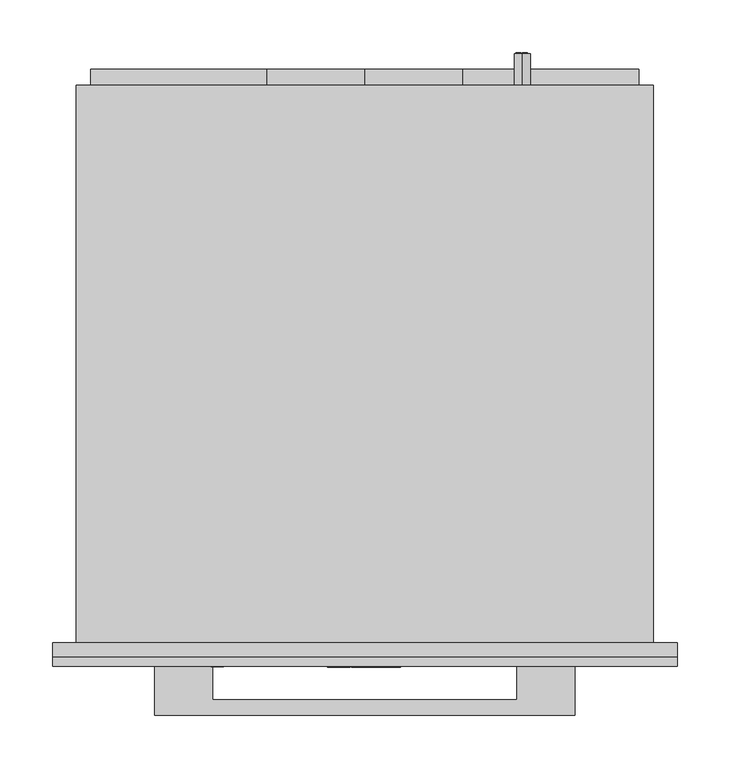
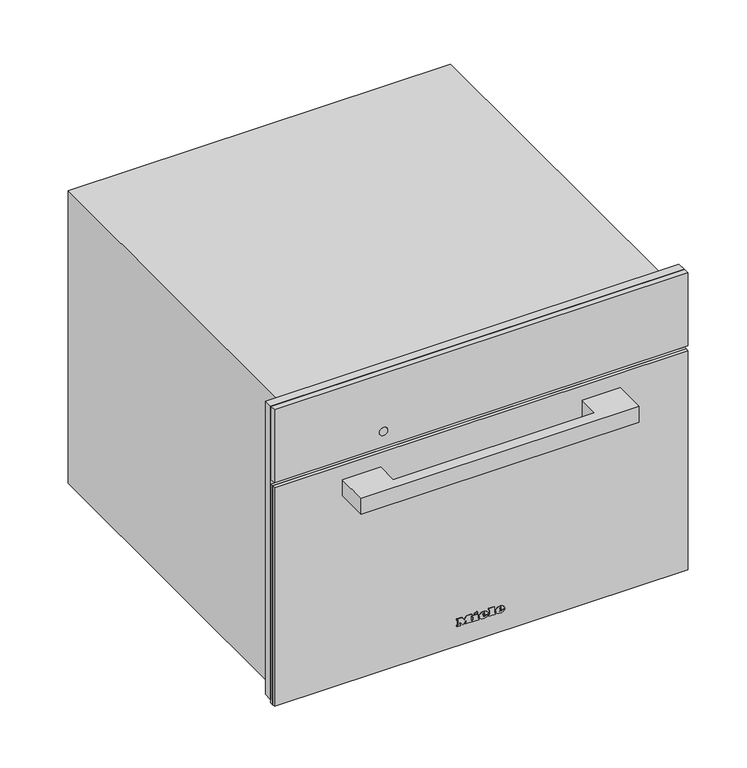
"""IFC4 building model written with IfcOpenShell, lengths in millimetres: proxy geometry, 11146180_IB_DG2840_OBSW : 23284020_IB_11146180_DG2840_OBSW."""

from ifc_helpers import new_model, si_unit, point, frame, frame_2d, origin, place, context, project, spatial, polyline, circle_curve, ellipse_curve, trimmed, segment, composite_curve, outline, extrude, faceted_brep, source, transform, mapped, element, save
from ifc_brep_helpers import plane_surface, cylinder_surface, revolved_surface, extruded_surface, advanced_brep


def specialty_equipment_9c9476c8(model_context):
    return source(origin(), model_context, "Body", "SolidModel", [
        extrude(outline(polyline([(455.0, 297.5), (455.0, -297.5), (9.0, -297.5), (9.0, -272.5), (344.0, -272.5), (344.0, 272.5), (9.0, 272.5), (9.0, 297.5), (455.0, 297.5)])), frame((0.0, -13.0, 0.0), z_axis=(0.0, 1.0, 0.0), x_axis=(0.0, 0.0, 1.0)), (0.0, 0.0, 1.0), 13.0),
        advanced_brep(
        [(150.0, 561.0, 410.5), (150.0, 561.0, 395.5), (144.4098301, 561.0, 398.0), (148.5, 561.0, 398.0), (148.5, 561.0, 408.0), (147.4955303, 561.0, 408.0), (147.4955303, 561.0, 399.0), (144.0315043, 561.0, 399.0), (144.0315043, 561.0, 398.4582978), (155.0, 561.0, 398.0), (155.0, 561.0, 408.0), (150.0, 561.0, 408.0), (150.0, 561.0, 407.0), (154.0, 561.0, 407.0), (154.0, 561.0, 403.5), (151.0, 561.0, 403.5), (151.0, 561.0, 402.5), (154.0, 561.0, 402.5), (154.0, 561.0, 399.0), (150.0, 561.0, 399.0), (150.0, 561.0, 398.0), (150.0, 531.0, 395.5), (150.0, 531.0, 410.5), (155.0, 562.0, 408.0), (155.0, 562.0, 398.0), (150.0, 562.0, 398.0), (150.0, 562.0, 399.0), (154.0, 562.0, 399.0), (154.0, 562.0, 402.5), (151.0, 562.0, 402.5), (151.0, 562.0, 403.5), (154.0, 562.0, 403.5), (154.0, 562.0, 407.0), (150.0, 562.0, 407.0), (150.0, 562.0, 408.0), (148.5, 562.0, 398.0), (144.0315043, 562.0, 398.0), (144.0315043, 562.0, 399.0), (147.4955303, 562.0, 399.0), (147.4955303, 562.0, 408.0), (148.5, 562.0, 408.0), (144.0315043, 561.0, 398.0)],
        [
            (0, 1, circle_curve(frame((150.0, 561.0, 403.0), z_axis=(0.0, 1.0, 0.0), x_axis=(0.0, 0.0, 1.0)), 7.5)),
            (1, 2, circle_curve(frame((150.0, 561.0, 403.0), z_axis=(0.0, 1.0, 0.0), x_axis=(0.0, 0.0, 1.0)), 7.5)),
            (2, 3),
            (3, 4),
            (4, 5),
            (5, 6),
            (6, 7),
            (7, 8),
            (8, 0, circle_curve(frame((150.0, 561.0, 403.0), z_axis=(0.0, 1.0, 0.0), x_axis=(0.0, 0.0, 1.0)), 7.5)),
            (9, 10),
            (10, 11),
            (11, 12),
            (12, 13),
            (13, 14),
            (14, 15),
            (15, 16),
            (16, 17),
            (17, 18),
            (18, 19),
            (19, 20),
            (20, 9),
            (21, 22, circle_curve(frame((150.0, 531.0, 403.0), z_axis=(0.0, -1.0, 0.0), x_axis=(0.0, 0.0, 1.0)), 7.5)),
            (22, 21, circle_curve(frame((150.0, 531.0, 403.0), z_axis=(0.0, -1.0, 0.0), x_axis=(0.0, 0.0, 1.0)), 7.5)),
            (0, 22),
            (21, 1),
            (8, 2, circle_curve(frame((150.0, 561.0, 403.0), z_axis=(0.0, -1.0, 0.0), x_axis=(0.0, 0.0, 1.0)), 7.5)),
            (23, 24),
            (24, 25),
            (25, 26),
            (26, 27),
            (27, 28),
            (28, 29),
            (29, 30),
            (30, 31),
            (31, 32),
            (32, 33),
            (33, 34),
            (34, 23),
            (35, 36),
            (36, 37),
            (37, 38),
            (38, 39),
            (39, 40),
            (40, 35),
            (8, 41),
            (41, 2),
            (23, 10),
            (9, 24),
            (20, 25),
            (19, 26),
            (18, 27),
            (17, 28),
            (16, 29),
            (15, 30),
            (14, 31),
            (13, 32),
            (12, 33),
            (11, 34),
            (35, 3),
            (41, 36),
            (7, 37),
            (6, 38),
            (5, 39),
            (4, 40),
        ],
        [
            plane_surface(frame((150.0, 561.0, 410.5), z_axis=(0.0, 1.0, 0.0), x_axis=(1.0, 0.0, 0.0))),
            plane_surface(frame((150.0, 531.0, 410.5), z_axis=(0.0, -1.0, 0.0), x_axis=(-1.0, 0.0, 0.0))),
            cylinder_surface(frame((150.0, 561.0, 403.0), z_axis=(0.0, -1.0, 0.0), x_axis=(0.0, 0.0, 1.0)), 7.5),
            plane_surface(frame((155.0, 562.0, 408.0), z_axis=(0.0, 1.0, 0.0), x_axis=(0.0, 0.0, -1.0))),
            plane_surface(frame((155.0, 561.0, 408.0), z_axis=(0.0, -1.0, 0.0), x_axis=(0.0, 0.0, 1.0))),
            plane_surface(frame((155.0, 562.0, 408.0), z_axis=(1.0, 0.0, 0.0), x_axis=(0.0, -1.0, 0.0))),
            plane_surface(frame((155.0, 562.0, 398.0), z_axis=(0.0, 0.0, -1.0), x_axis=(0.0, -1.0, 0.0))),
            plane_surface(frame((150.0, 562.0, 398.0), z_axis=(-1.0, 0.0, 0.0), x_axis=(0.0, -1.0, 0.0))),
            plane_surface(frame((150.0, 562.0, 399.0), z_axis=(0.0, 0.0, 1.0), x_axis=(0.0, -1.0, 0.0))),
            plane_surface(frame((154.0, 562.0, 399.0), z_axis=(-1.0, 0.0, 0.0), x_axis=(0.0, -1.0, 0.0))),
            plane_surface(frame((154.0, 562.0, 402.5), z_axis=(0.0, 0.0, -1.0), x_axis=(0.0, -1.0, 0.0))),
            plane_surface(frame((151.0, 562.0, 402.5), z_axis=(-1.0, 0.0, 0.0), x_axis=(0.0, -1.0, 0.0))),
            plane_surface(frame((151.0, 562.0, 403.5), z_axis=(0.0, 0.0, 1.0), x_axis=(0.0, -1.0, 0.0))),
            plane_surface(frame((154.0, 562.0, 403.5), z_axis=(-1.0, 0.0, 0.0), x_axis=(0.0, -1.0, 0.0))),
            plane_surface(frame((154.0, 562.0, 407.0), z_axis=(0.0, 0.0, -1.0), x_axis=(0.0, -1.0, 0.0))),
            plane_surface(frame((150.0, 562.0, 407.0), z_axis=(-1.0, 0.0, 0.0), x_axis=(0.0, -1.0, 0.0))),
            plane_surface(frame((150.0, 562.0, 408.0), z_axis=(0.0, 0.0, 1.0), x_axis=(0.0, -1.0, 0.0))),
            plane_surface(frame((148.5, 562.0, 398.0), z_axis=(0.0, 0.0, -1.0), x_axis=(0.0, -1.0, 0.0))),
            plane_surface(frame((144.0315043, 562.0, 398.0), z_axis=(-1.0, 0.0, 0.0), x_axis=(0.0, -1.0, 0.0))),
            plane_surface(frame((144.0315043, 562.0, 399.0), z_axis=(0.0, 0.0, 1.0), x_axis=(0.0, -1.0, 0.0))),
            plane_surface(frame((147.4955303, 562.0, 399.0), z_axis=(-1.0, 0.0, 0.0), x_axis=(0.0, -1.0, 0.0))),
            plane_surface(frame((147.4955303, 562.0, 408.0), z_axis=(0.0, 0.0, 1.0), x_axis=(0.0, -1.0, 0.0))),
            plane_surface(frame((148.5, 562.0, 408.0), z_axis=(1.0, 0.0, 0.0), x_axis=(0.0, -1.0, 0.0))),
        ],
        [
            (0, [[1, 2, 3, 4, 5, 6, 7, 8, 9], [10, 11, 12, 13, 14, 15, 16, 17, 18, 19, 20, 21]]),
            (1, [[22, 23]]),
            (2, [[-1, 24, -22, 25]]),
            (2, [[-23, -24, -9, 26, -2, -25]]),
            (3, [[27, 28, 29, 30, 31, 32, 33, 34, 35, 36, 37, 38]]),
            (3, [[39, 40, 41, 42, 43, 44]]),
            (4, [[45, 46, -26]]),
            (5, [[-27, 47, -10, 48]]),
            (6, [[-28, -48, -21, 49]]),
            (7, [[-29, -49, -20, 50]]),
            (8, [[-30, -50, -19, 51]]),
            (9, [[-31, -51, -18, 52]]),
            (10, [[-32, -52, -17, 53]]),
            (11, [[-33, -53, -16, 54]]),
            (12, [[-34, -54, -15, 55]]),
            (13, [[-35, -55, -14, 56]]),
            (14, [[-36, -56, -13, 57]]),
            (15, [[-37, -57, -12, 58]]),
            (16, [[-38, -58, -11, -47]]),
            (17, [[-39, 59, -3, -46, 60]]),
            (18, [[-40, -60, -45, -8, 61]]),
            (19, [[-41, -61, -7, 62]]),
            (20, [[-42, -62, -6, 63]]),
            (21, [[-43, -63, -5, 64]]),
            (22, [[-44, -64, -4, -59]]),
        ],
    ),
        extrude(outline(polyline([(299.0, -93.0), (258.0, -93.0), (258.0, -261.0), (111.0, -261.0), (111.0, -93.0), (70.0, -93.0), (70.0, 0.0), (70.0, 93.0), (111.0, 93.0), (111.0, 261.0), (258.0, 261.0), (258.0, 93.0), (299.0, 93.0), (299.0, 0.0), (299.0, -93.0)])), frame((0.0, 531.0, 0.0), z_axis=(0.0, 1.0, 0.0), x_axis=(0.0, 0.0, 1.0)), (0.0, 0.0, 1.0), 15.0),
        faceted_brep([(275.0, 531.0, 445.0), (275.0, 531.0, 0.0), (-275.0, 531.0, 0.0), (-275.0, 531.0, 445.0), (275.0, 0.0, 445.0), (-275.0, 0.0, 445.0), (-275.0, 0.0, 0.0), (275.0, 0.0, 0.0), (-272.5, 0.0, 344.0), (272.5, 0.0, 344.0), (272.5, 0.0, 8.0), (-272.5, 0.0, 8.0), (272.5, 34.0, 344.0), (-272.5, 34.0, 344.0), (-272.5, 34.0, 8.0), (272.5, 34.0, 8.0), (161.0, 34.0, 286.0), (161.0, 34.0, 58.0), (-220.0, 34.0, 58.0), (-220.0, 34.0, 286.0), (161.0, 444.0, 286.0), (-220.0, 444.0, 286.0), (-220.0, 444.0, 58.0), (161.0, 444.0, 58.0)], [[[0, 1, 2, 3]], [[4, 5, 6, 7], [8, 9, 10, 11]], [[0, 3, 5, 4]], [[3, 2, 6, 5]], [[2, 1, 7, 6]], [[1, 0, 4, 7]], [[12, 13, 14, 15], [16, 17, 18, 19]], [[13, 12, 9, 8]], [[14, 13, 8, 11]], [[15, 14, 11, 10]], [[12, 15, 10, 9]], [[20, 21, 22, 23]], [[20, 23, 17, 16]], [[23, 22, 18, 17]], [[22, 21, 19, 18]], [[21, 20, 16, 19]]]),
        advanced_brep(
        [(26.2998, -23.0, 36.7018), (26.2998, -23.0, 37.8532), (33.9264, -23.0, 37.8532), (20.6568, -23.0, 37.8532), (23.7918, -23.0, 34.0), (33.7326, -23.0, 36.7018), (30.2898, -23.0, 36.7018), (27.5766, -23.0, 35.425), (26.2998, -23.0, 39.3124), (26.2998, -23.0, 40.555), (28.2492, -23.0, 40.555), (28.2492, -23.0, 39.3124), (26.2998, -22.0, 36.7018), (27.5766, -22.0, 35.425), (30.2898, -22.0, 36.7018), (33.7326, -22.0, 36.7018), (23.7918, -22.0, 34.0), (20.6568, -22.0, 37.8532), (33.9264, -22.0, 37.8532), (26.2998, -22.0, 37.8532), (26.2998, -22.0, 39.3124), (28.2492, -22.0, 39.3124), (28.2492, -22.0, 40.555), (26.2998, -22.0, 40.555)],
        [
            (0, 1),
            (1, 2),
            (2, 3, ellipse_curve(frame((27.2916, -23.0, 37.8532), z_axis=(0.0, -1.0, 0.0), x_axis=(-1.0, 0.0, 0.0)), 6.6348, 5.4834)),
            (3, 4, circle_curve(frame((25.0686622, -23.0, 38.2408), z_axis=(0.0, -1.0, 0.0), x_axis=(0.0, 0.0, -1.0)), 4.4288556)),
            (4, 5, circle_curve(frame((27.1587808, -23.0, 41.2504), z_axis=(0.0, -1.0, 0.0), x_axis=(0.0, 0.0, -1.0)), 7.9940516)),
            (5, 6),
            (6, 7, circle_curve(frame((28.1338588, -23.0, 37.762), z_axis=(0.0, 1.0, 0.0), x_axis=(0.0, 0.0, -1.0)), 2.4025208)),
            (7, 0, circle_curve(frame((27.5766, -23.0, 36.7018), z_axis=(0.0, 1.0, 0.0), x_axis=(0.0, 0.0, -1.0)), 1.2768)),
            (8, 9),
            (9, 10, circle_curve(frame((27.2745, -23.0, 40.555), z_axis=(0.0, 1.0, 0.0), x_axis=(0.0, 0.0, -1.0)), 0.9747)),
            (10, 11),
            (11, 8),
            (12, 13, circle_curve(frame((27.5766, -22.0, 36.7018), z_axis=(0.0, -1.0, 0.0), x_axis=(0.0, 0.0, -1.0)), 1.2768)),
            (13, 14, circle_curve(frame((28.1338588, -22.0, 37.762), z_axis=(0.0, -1.0, 0.0), x_axis=(0.0, 0.0, -1.0)), 2.4025208)),
            (14, 15),
            (15, 16, circle_curve(frame((27.1587808, -22.0, 41.2504), z_axis=(0.0, 1.0, 0.0), x_axis=(0.0, 0.0, -1.0)), 7.9940516)),
            (16, 17, circle_curve(frame((25.0686622, -22.0, 38.2408), z_axis=(0.0, 1.0, 0.0), x_axis=(0.0, 0.0, -1.0)), 4.4288556)),
            (17, 18, ellipse_curve(frame((27.2916, -22.0, 37.8532), z_axis=(0.0, 1.0, 0.0), x_axis=(-1.0, 0.0, 0.0)), 6.6348, 5.4834)),
            (18, 19),
            (19, 12),
            (20, 21),
            (21, 22),
            (22, 23, circle_curve(frame((27.2745, -22.0, 40.555), z_axis=(0.0, -1.0, 0.0), x_axis=(0.0, 0.0, -1.0)), 0.9747)),
            (23, 20),
            (0, 12),
            (19, 1),
            (18, 2),
            (5, 15),
            (14, 6),
            (17, 3),
            (13, 7),
            (16, 4),
            (8, 20),
            (23, 9),
            (22, 10),
            (21, 11),
        ],
        [
            plane_surface(frame((26.2998, -23.0, 37.8532), z_axis=(0.0, -1.0, 0.0), x_axis=(0.0, 0.0, 1.0))),
            plane_surface(frame((26.2998, -22.0, 37.8532), z_axis=(0.0, 1.0, 0.0), x_axis=(0.0, 0.0, -1.0))),
            plane_surface(frame((26.2998, -23.0, 36.7018), z_axis=(1.0, 0.0, 0.0), x_axis=(0.0, 1.0, 0.0))),
            plane_surface(frame((26.2998, -23.0, 37.8532), z_axis=(0.0, 0.0, -1.0), x_axis=(0.0, 1.0, 0.0))),
            plane_surface(frame((33.7326, -23.0, 36.7018), z_axis=(0.0, 0.0, 1.0), x_axis=(0.0, 1.0, 0.0))),
            extruded_surface(trimmed(ellipse_curve(frame((27.2916, -21.0, 37.8532), z_axis=(0.0, -1.0, 0.0), x_axis=(-1.0, 0.0, 0.0)), 6.6348, 5.4834), [point((33.9264, -21.0, 37.8532))], [point((20.6568, -21.0, 37.8532))], True, "CARTESIAN"), (0.0, -1.0, 0.0), 1.0),
            revolved_surface(polyline([(28.1338588, -22.0, 35.3594792), (28.1338588, -23.0, 35.3594792)]), (28.1338588, -22.0, 37.762), (0.0, 1.0, 0.0)),
            revolved_surface(polyline([(27.5766, -22.0, 35.425), (27.5766, -23.0, 35.425)]), (27.5766, -22.0, 36.7018), (0.0, 1.0, 0.0)),
            cylinder_surface(frame((25.0686622, -22.0, 38.2408), z_axis=(0.0, -1.0, 0.0), x_axis=(0.0, 0.0, -1.0)), 4.4288556),
            cylinder_surface(frame((27.1587808, -22.0, 41.2504), z_axis=(0.0, -1.0, 0.0), x_axis=(0.0, 0.0, -1.0)), 7.9940516),
            plane_surface(frame((26.2998, -23.0, 39.3124), z_axis=(1.0, 0.0, 0.0), x_axis=(0.0, 1.0, 0.0))),
            revolved_surface(polyline([(27.2745, -22.0, 39.5803), (27.2745, -23.0, 39.5803)]), (27.2745, -22.0, 40.555), (0.0, 1.0, 0.0)),
            plane_surface(frame((28.2492, -23.0, 40.555), z_axis=(-1.0, 0.0, 0.0), x_axis=(0.0, 1.0, 0.0))),
            plane_surface(frame((28.2492, -23.0, 39.3124), z_axis=(0.0, 0.0, 1.0), x_axis=(0.0, 1.0, 0.0))),
        ],
        [
            (0, [[1, 2, 3, 4, 5, 6, 7, 8], [9, 10, 11, 12]]),
            (1, [[13, 14, 15, 16, 17, 18, 19, 20], [21, 22, 23, 24]]),
            (2, [[-1, 25, -20, 26]]),
            (3, [[-2, -26, -19, 27]]),
            (4, [[-6, 28, -15, 29]]),
            (5, [[-3, -27, -18, 30]]),
            (6, [[-7, -29, -14, 31]]),
            (7, [[-8, -31, -13, -25]]),
            (8, [[-4, -30, -17, 32]]),
            (9, [[-5, -32, -16, -28]]),
            (10, [[-9, 33, -24, 34]]),
            (11, [[-10, -34, -23, 35]]),
            (12, [[-11, -35, -22, 36]]),
            (13, [[-12, -36, -21, -33]]),
        ],
    ),
        advanced_brep(
        [(2.508, -23.0, 36.7018), (2.508, -23.0, 37.8532), (10.1346, -23.0, 37.8532), (-3.135, -23.0, 37.8532), (0.0, -23.0, 34.0), (9.9408, -23.0, 36.7018), (6.498, -23.0, 36.7018), (3.7848, -23.0, 35.425), (2.508, -23.0, 39.3124), (2.508, -23.0, 40.555), (4.4574, -23.0, 40.555), (4.4574, -23.0, 39.3124), (2.508, -22.0, 36.7018), (3.7848, -22.0, 35.425), (6.498, -22.0, 36.7018), (9.9408, -22.0, 36.7018), (0.0, -22.0, 34.0), (-3.135, -22.0, 37.8532), (10.1346, -22.0, 37.8532), (2.508, -22.0, 37.8532), (2.508, -22.0, 39.3124), (4.4574, -22.0, 39.3124), (4.4574, -22.0, 40.555), (2.508, -22.0, 40.555)],
        [
            (0, 1),
            (1, 2),
            (2, 3, ellipse_curve(frame((3.4998, -23.0, 37.8532), z_axis=(0.0, -1.0, 0.0), x_axis=(-1.0, 0.0, 0.0)), 6.6348, 5.4834)),
            (3, 4, circle_curve(frame((1.2768622, -23.0, 38.2408), z_axis=(0.0, -1.0, 0.0), x_axis=(0.0, 0.0, -1.0)), 4.4288556)),
            (4, 5, circle_curve(frame((3.3669808, -23.0, 41.2504), z_axis=(0.0, -1.0, 0.0), x_axis=(0.0, 0.0, -1.0)), 7.9940516)),
            (5, 6),
            (6, 7, circle_curve(frame((4.3420588, -23.0, 37.762), z_axis=(0.0, 1.0, 0.0), x_axis=(0.0, 0.0, -1.0)), 2.4025208)),
            (7, 0, circle_curve(frame((3.7848, -23.0, 36.7018), z_axis=(0.0, 1.0, 0.0), x_axis=(0.0, 0.0, -1.0)), 1.2768)),
            (8, 9),
            (9, 10, circle_curve(frame((3.4827, -23.0, 40.555), z_axis=(0.0, 1.0, 0.0), x_axis=(0.0, 0.0, -1.0)), 0.9747)),
            (10, 11),
            (11, 8),
            (12, 13, circle_curve(frame((3.7848, -22.0, 36.7018), z_axis=(0.0, -1.0, 0.0), x_axis=(0.0, 0.0, -1.0)), 1.2768)),
            (13, 14, circle_curve(frame((4.3420588, -22.0, 37.762), z_axis=(0.0, -1.0, 0.0), x_axis=(0.0, 0.0, -1.0)), 2.4025208)),
            (14, 15),
            (15, 16, circle_curve(frame((3.3669808, -22.0, 41.2504), z_axis=(0.0, 1.0, 0.0), x_axis=(0.0, 0.0, -1.0)), 7.9940516)),
            (16, 17, circle_curve(frame((1.2768622, -22.0, 38.2408), z_axis=(0.0, 1.0, 0.0), x_axis=(0.0, 0.0, -1.0)), 4.4288556)),
            (17, 18, ellipse_curve(frame((3.4998, -22.0, 37.8532), z_axis=(0.0, 1.0, 0.0), x_axis=(-1.0, 0.0, 0.0)), 6.6348, 5.4834)),
            (18, 19),
            (19, 12),
            (20, 21),
            (21, 22),
            (22, 23, circle_curve(frame((3.4827, -22.0, 40.555), z_axis=(0.0, -1.0, 0.0), x_axis=(0.0, 0.0, -1.0)), 0.9747)),
            (23, 20),
            (0, 12),
            (19, 1),
            (18, 2),
            (5, 15),
            (14, 6),
            (17, 3),
            (13, 7),
            (16, 4),
            (8, 20),
            (23, 9),
            (22, 10),
            (21, 11),
        ],
        [
            plane_surface(frame((2.508, -23.0, 37.8532), z_axis=(0.0, -1.0, 0.0), x_axis=(0.0, 0.0, 1.0))),
            plane_surface(frame((2.508, -22.0, 37.8532), z_axis=(0.0, 1.0, 0.0), x_axis=(0.0, 0.0, -1.0))),
            plane_surface(frame((2.508, -23.0, 36.7018), z_axis=(1.0, 0.0, 0.0), x_axis=(0.0, 1.0, 0.0))),
            plane_surface(frame((2.508, -23.0, 37.8532), z_axis=(0.0, 0.0, -1.0), x_axis=(0.0, 1.0, 0.0))),
            plane_surface(frame((9.9408, -23.0, 36.7018), z_axis=(0.0, 0.0, 1.0), x_axis=(0.0, 1.0, 0.0))),
            extruded_surface(trimmed(ellipse_curve(frame((3.4998, -21.0, 37.8532), z_axis=(0.0, -1.0, 0.0), x_axis=(-1.0, 0.0, 0.0)), 6.6348, 5.4834), [point((10.1346, -21.0, 37.8532))], [point((-3.135, -21.0, 37.8532))], True, "CARTESIAN"), (0.0, -1.0, 0.0), 1.0),
            revolved_surface(polyline([(4.3420588, -22.0, 35.3594792), (4.3420588, -23.0, 35.3594792)]), (4.3420588, -22.0, 37.762), (0.0, 1.0, 0.0)),
            revolved_surface(polyline([(3.7848, -22.0, 35.425), (3.7848, -23.0, 35.425)]), (3.7848, -22.0, 36.7018), (0.0, 1.0, 0.0)),
            cylinder_surface(frame((1.2768622, -22.0, 38.2408), z_axis=(0.0, -1.0, 0.0), x_axis=(0.0, 0.0, -1.0)), 4.4288556),
            cylinder_surface(frame((3.3669808, -22.0, 41.2504), z_axis=(0.0, -1.0, 0.0), x_axis=(0.0, 0.0, -1.0)), 7.9940516),
            plane_surface(frame((2.508, -23.0, 39.3124), z_axis=(1.0, 0.0, 0.0), x_axis=(0.0, 1.0, 0.0))),
            revolved_surface(polyline([(3.4827, -22.0, 39.5803), (3.4827, -23.0, 39.5803)]), (3.4827, -22.0, 40.555), (0.0, 1.0, 0.0)),
            plane_surface(frame((4.4574, -23.0, 40.555), z_axis=(-1.0, 0.0, 0.0), x_axis=(0.0, 1.0, 0.0))),
            plane_surface(frame((4.4574, -23.0, 39.3124), z_axis=(0.0, 0.0, 1.0), x_axis=(0.0, 1.0, 0.0))),
        ],
        [
            (0, [[1, 2, 3, 4, 5, 6, 7, 8], [9, 10, 11, 12]]),
            (1, [[13, 14, 15, 16, 17, 18, 19, 20], [21, 22, 23, 24]]),
            (2, [[-1, 25, -20, 26]]),
            (3, [[-2, -26, -19, 27]]),
            (4, [[-6, 28, -15, 29]]),
            (5, [[-3, -27, -18, 30]]),
            (6, [[-7, -29, -14, 31]]),
            (7, [[-8, -31, -13, -25]]),
            (8, [[-4, -30, -17, 32]]),
            (9, [[-5, -32, -16, -28]]),
            (10, [[-9, 33, -24, 34]]),
            (11, [[-10, -34, -23, 35]]),
            (12, [[-11, -35, -22, 36]]),
            (13, [[-12, -36, -21, -33]]),
        ],
    ),
        extrude(outline(polyline([(44.7274, -9.9522), (42.8806, -9.0858), (44.6818, -5.2212), (46.5286, -6.0762), (44.7274, -9.9522)])), frame((0.0, -23.0, 0.0), z_axis=(0.0, 1.0, 0.0), x_axis=(0.0, 0.0, 1.0)), (0.0, 0.0, 1.0), 1.0),
        extrude(outline(polyline([(42.6298, -12.768), (40.5892, -12.768), (40.5892, -11.4114), (35.9152, -11.4114), (35.9152, -12.768), (34.0, -12.768), (34.0, -3.7734), (35.9152, -3.7734), (35.9152, -5.0958), (42.6298, -5.0958), (42.6298, -12.768)])), frame((0.0, -23.0, 0.0), z_axis=(0.0, 1.0, 0.0), x_axis=(0.0, 0.0, 1.0)), (0.0, 0.0, 1.0), 1.0),
        extrude(outline(polyline([(43.5418, 10.773), (43.5418, 12.141), (35.9152, 12.141), (35.9152, 10.773), (34.0, 10.773), (34.0, 20.0184), (35.9152, 20.0184), (35.9152, 18.6162), (45.4, 18.6162), (45.4, 10.773), (43.5418, 10.773)])), frame((0.0, -23.0, 0.0), z_axis=(0.0, 1.0, 0.0), x_axis=(0.0, 0.0, 1.0)), (0.0, 0.0, 1.0), 1.0),
        extrude(outline(polyline([(43.5418, -35.4882), (43.5418, -34.1088), (35.9152, -34.1088), (35.9152, -35.4882), (34.0, -35.4882), (34.0, -30.4722), (35.9152, -30.4722), (35.9152, -31.8402), (40.7429247, -31.8402), (34.0, -26.7444), (40.9402223, -21.6258), (35.9152, -21.6258), (35.9152, -23.028), (34.0, -23.028), (34.0, -13.9308), (35.9152, -13.9308), (35.9152, -15.3786), (43.5418, -15.3786), (43.5418, -13.9308), (45.4, -13.9308), (45.4, -20.8734), (41.125, -24.2022), (45.4, -27.5424), (45.4, -35.4882), (43.5418, -35.4882)])), frame((0.0, -23.0, 0.0), z_axis=(0.0, 1.0, 0.0), x_axis=(0.0, 0.0, 1.0)), (0.0, 0.0, 1.0), 1.0),
        extrude(outline(polyline([(297.5, -22.0), (-297.5, -22.0), (-297.5, -13.0), (297.5, -13.0), (297.5, -22.0)])), frame((0.0, 0.0, 344.0), z_axis=(0.0, 0.0, 1.0), x_axis=(1.0, 0.0, 0.0)), (0.0, 0.0, 1.0), 111.0),
        extrude(outline(composite_curve([segment(trimmed(circle_curve(frame_2d((367.7, -140.5745637)), 6.0), [point((367.7, -146.5745637))], [point((367.7, -134.5745637))], False, "CARTESIAN"), True, "CONTINUOUS"), segment(trimmed(circle_curve(frame_2d((367.7, -140.5745637)), 6.0), [point((367.7, -134.5745637))], [point((367.7, -146.5745637))], False, "CARTESIAN"), True, "CONTINUOUS")], self_intersect=False)), frame((0.0, -22.5, 0.0), z_axis=(0.0, 1.0, 0.0), x_axis=(0.0, 0.0, 1.0)), (0.0, 0.0, 1.0), 1.0),
        extrude(outline(polyline([(-297.5, -18.0), (297.5, -18.0), (297.5, -22.0), (-297.5, -22.0), (-297.5, -18.0)])), frame((0.0, 0.0, 4.0), z_axis=(0.0, 0.0, 1.0), x_axis=(1.0, 0.0, 0.0)), (0.0, 0.0, 1.0), 333.0),
        extrude(outline(polyline([(297.5, -18.0), (-297.5, -18.0), (-297.5, -13.0), (297.5, -13.0), (297.5, -18.0)])), frame((0.0, 0.0, 4.0), z_axis=(0.0, 0.0, 1.0), x_axis=(1.0, 0.0, 0.0)), (0.0, 0.0, 1.0), 333.0),
        extrude(outline(polyline([(-200.0, -69.0), (-200.0, -22.0), (-145.0, -22.0), (-145.0, -54.0), (145.0, -54.0), (145.0, -22.0), (200.0, -22.0), (200.0, -69.0), (-200.0, -69.0)])), frame((0.0, 0.0, 291.0), z_axis=(0.0, 0.0, 1.0), x_axis=(1.0, 0.0, 0.0)), (0.0, 0.0, 1.0), 24.0),
    ])


if __name__ == "__main__":
    model = new_model("IFC4")
    model_context = context("Model", 3, world=origin())
    ifc_project = project(units=[si_unit("LENGTHUNIT", "METRE", prefix="MILLI")], contexts=[model_context])
    site = spatial("IfcSite", under=ifc_project)
    building = spatial("IfcBuilding", under=site)
    placement = place(None, origin())
    specialty_equipment_shape = specialty_equipment_9c9476c8(model_context)
    element("IfcBuildingElementProxy", 1, Name="11146180_IB_DG2840_OBSW : 23284020_IB_11146180_DG2840_OBSW", ObjectType="11146180_IB_DG2840_OBSW : 23284020_IB_11146180_DG2840_OBSW", at=placement, inside=building, context=model_context, shape_type="MappedRepresentation", body=[
        mapped(specialty_equipment_shape, transform((0.0, 0.0, 0.0), x_axis=(1.0, 0.0, 0.0), y_axis=(0.0, 1.0, 0.0), z_axis=(0.0, 0.0, 1.0))),
    ])
    save(model, "model.ifc")
